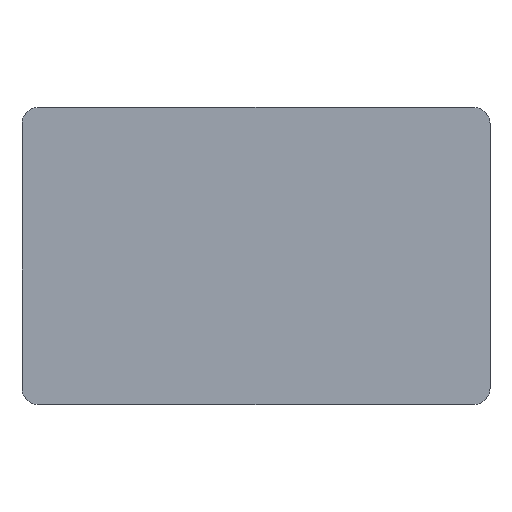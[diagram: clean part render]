
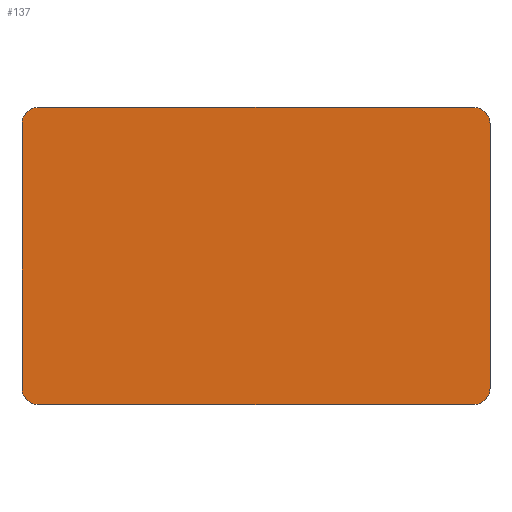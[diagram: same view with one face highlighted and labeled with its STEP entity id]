
A CAD part, top view. The second image highlights one B-rep face of the part: STEP entity #137.
In plain terms, the highlighted planar face has unit normal (0, 0, 1).
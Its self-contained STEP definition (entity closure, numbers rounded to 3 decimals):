
#21 = EDGE_CURVE('',#22,#24,#26,.T.);
#22 = VERTEX_POINT('',#23);
#23 = CARTESIAN_POINT('',(-42.5,-24.,3.));
#24 = VERTEX_POINT('',#25);
#25 = CARTESIAN_POINT('',(-42.5,24.,3.));
#26 = SURFACE_CURVE('',#27,(#31,#43),.PCURVE_S1.);
#27 = LINE('',#28,#29);
#28 = CARTESIAN_POINT('',(-42.5,-27.,3.));
#29 = VECTOR('',#30,1.);
#30 = DIRECTION('',(0.,1.,0.));
#31 = PCURVE('',#32,#37);
#32 = PLANE('',#33);
#33 = AXIS2_PLACEMENT_3D('',#34,#35,#36);
#34 = CARTESIAN_POINT('',(-42.5,-27.,0.));
#35 = DIRECTION('',(1.,0.,0.));
#36 = DIRECTION('',(0.,0.,1.));
#37 = DEFINITIONAL_REPRESENTATION('',(#38),#42);
#38 = LINE('',#39,#40);
#39 = CARTESIAN_POINT('',(3.,0.));
#40 = VECTOR('',#41,1.);
#41 = DIRECTION('',(0.,-1.));
#42 = ( GEOMETRIC_REPRESENTATION_CONTEXT(2) 
PARAMETRIC_REPRESENTATION_CONTEXT() REPRESENTATION_CONTEXT('2D SPACE',''
  ) );
#43 = PCURVE('',#44,#49);
#44 = PLANE('',#45);
#45 = AXIS2_PLACEMENT_3D('',#46,#47,#48);
#46 = CARTESIAN_POINT('',(-42.5,-27.,3.));
#47 = DIRECTION('',(0.,0.,1.));
#48 = DIRECTION('',(1.,0.,0.));
#49 = DEFINITIONAL_REPRESENTATION('',(#50),#54);
#50 = LINE('',#51,#52);
#51 = CARTESIAN_POINT('',(0.,0.));
#52 = VECTOR('',#53,1.);
#53 = DIRECTION('',(0.,1.));
#54 = ( GEOMETRIC_REPRESENTATION_CONTEXT(2) 
PARAMETRIC_REPRESENTATION_CONTEXT() REPRESENTATION_CONTEXT('2D SPACE',''
  ) );
#72 = CYLINDRICAL_SURFACE('',#73,3.);
#73 = AXIS2_PLACEMENT_3D('',#74,#75,#76);
#74 = CARTESIAN_POINT('',(-39.5,-24.,0.));
#75 = DIRECTION('',(0.,0.,1.));
#76 = DIRECTION('',(-1.,-0.,0.));
#126 = CYLINDRICAL_SURFACE('',#127,3.);
#127 = AXIS2_PLACEMENT_3D('',#128,#129,#130);
#128 = CARTESIAN_POINT('',(-39.5,24.,0.));
#129 = DIRECTION('',(0.,0.,1.));
#130 = DIRECTION('',(-1.,-0.,0.));
#137 = ADVANCED_FACE('',(#138),#44,.T.);
#138 = FACE_BOUND('',#139,.T.);
#139 = EDGE_LOOP('',(#140,#141,#165,#193,#226,#254,#283,#311));
#140 = ORIENTED_EDGE('',*,*,#21,.F.);
#141 = ORIENTED_EDGE('',*,*,#142,.T.);
#142 = EDGE_CURVE('',#22,#143,#145,.T.);
#143 = VERTEX_POINT('',#144);
#144 = CARTESIAN_POINT('',(-39.5,-27.,3.));
#145 = SURFACE_CURVE('',#146,(#151,#158),.PCURVE_S1.);
#146 = CIRCLE('',#147,3.);
#147 = AXIS2_PLACEMENT_3D('',#148,#149,#150);
#148 = CARTESIAN_POINT('',(-39.5,-24.,3.));
#149 = DIRECTION('',(0.,0.,1.));
#150 = DIRECTION('',(0.,-1.,0.));
#151 = PCURVE('',#44,#152);
#152 = DEFINITIONAL_REPRESENTATION('',(#153),#157);
#153 = CIRCLE('',#154,3.);
#154 = AXIS2_PLACEMENT_2D('',#155,#156);
#155 = CARTESIAN_POINT('',(3.,3.));
#156 = DIRECTION('',(0.,-1.));
#157 = ( GEOMETRIC_REPRESENTATION_CONTEXT(2) 
PARAMETRIC_REPRESENTATION_CONTEXT() REPRESENTATION_CONTEXT('2D SPACE',''
  ) );
#158 = PCURVE('',#72,#159);
#159 = DEFINITIONAL_REPRESENTATION('',(#160),#164);
#160 = LINE('',#161,#162);
#161 = CARTESIAN_POINT('',(-4.712,3.));
#162 = VECTOR('',#163,1.);
#163 = DIRECTION('',(1.,0.));
#164 = ( GEOMETRIC_REPRESENTATION_CONTEXT(2) 
PARAMETRIC_REPRESENTATION_CONTEXT() REPRESENTATION_CONTEXT('2D SPACE',''
  ) );
#165 = ORIENTED_EDGE('',*,*,#166,.T.);
#166 = EDGE_CURVE('',#143,#167,#169,.T.);
#167 = VERTEX_POINT('',#168);
#168 = CARTESIAN_POINT('',(39.5,-27.,3.));
#169 = SURFACE_CURVE('',#170,(#174,#181),.PCURVE_S1.);
#170 = LINE('',#171,#172);
#171 = CARTESIAN_POINT('',(-42.5,-27.,3.));
#172 = VECTOR('',#173,1.);
#173 = DIRECTION('',(1.,0.,0.));
#174 = PCURVE('',#44,#175);
#175 = DEFINITIONAL_REPRESENTATION('',(#176),#180);
#176 = LINE('',#177,#178);
#177 = CARTESIAN_POINT('',(0.,0.));
#178 = VECTOR('',#179,1.);
#179 = DIRECTION('',(1.,0.));
#180 = ( GEOMETRIC_REPRESENTATION_CONTEXT(2) 
PARAMETRIC_REPRESENTATION_CONTEXT() REPRESENTATION_CONTEXT('2D SPACE',''
  ) );
#181 = PCURVE('',#182,#187);
#182 = PLANE('',#183);
#183 = AXIS2_PLACEMENT_3D('',#184,#185,#186);
#184 = CARTESIAN_POINT('',(-42.5,-27.,0.));
#185 = DIRECTION('',(0.,1.,0.));
#186 = DIRECTION('',(0.,0.,1.));
#187 = DEFINITIONAL_REPRESENTATION('',(#188),#192);
#188 = LINE('',#189,#190);
#189 = CARTESIAN_POINT('',(3.,0.));
#190 = VECTOR('',#191,1.);
#191 = DIRECTION('',(0.,1.));
#192 = ( GEOMETRIC_REPRESENTATION_CONTEXT(2) 
PARAMETRIC_REPRESENTATION_CONTEXT() REPRESENTATION_CONTEXT('2D SPACE',''
  ) );
#193 = ORIENTED_EDGE('',*,*,#194,.F.);
#194 = EDGE_CURVE('',#195,#167,#197,.T.);
#195 = VERTEX_POINT('',#196);
#196 = CARTESIAN_POINT('',(42.5,-24.,3.));
#197 = SURFACE_CURVE('',#198,(#203,#214),.PCURVE_S1.);
#198 = CIRCLE('',#199,3.);
#199 = AXIS2_PLACEMENT_3D('',#200,#201,#202);
#200 = CARTESIAN_POINT('',(39.5,-24.,3.));
#201 = DIRECTION('',(-0.,-0.,-1.));
#202 = DIRECTION('',(0.,-1.,0.));
#203 = PCURVE('',#44,#204);
#204 = DEFINITIONAL_REPRESENTATION('',(#205),#213);
#205 = ( BOUNDED_CURVE() B_SPLINE_CURVE(2,(#206,#207,#208,#209,#210,#211
,#212),.UNSPECIFIED.,.T.,.F.) B_SPLINE_CURVE_WITH_KNOTS((1,2,2,2,2,1),(
    -2.094,0.,2.094,4.189,6.283,
8.378),.UNSPECIFIED.) CURVE() GEOMETRIC_REPRESENTATION_ITEM() 
RATIONAL_B_SPLINE_CURVE((1.,0.5,1.,0.5,1.,0.5,1.)) REPRESENTATION_ITEM(
  '') );
#206 = CARTESIAN_POINT('',(82.,0.));
#207 = CARTESIAN_POINT('',(76.804,0.));
#208 = CARTESIAN_POINT('',(79.402,4.5));
#209 = CARTESIAN_POINT('',(82.,9.));
#210 = CARTESIAN_POINT('',(84.598,4.5));
#211 = CARTESIAN_POINT('',(87.196,0.));
#212 = CARTESIAN_POINT('',(82.,0.));
#213 = ( GEOMETRIC_REPRESENTATION_CONTEXT(2) 
PARAMETRIC_REPRESENTATION_CONTEXT() REPRESENTATION_CONTEXT('2D SPACE',''
  ) );
#214 = PCURVE('',#215,#220);
#215 = CYLINDRICAL_SURFACE('',#216,3.);
#216 = AXIS2_PLACEMENT_3D('',#217,#218,#219);
#217 = CARTESIAN_POINT('',(39.5,-24.,0.));
#218 = DIRECTION('',(0.,0.,1.));
#219 = DIRECTION('',(1.,0.,-0.));
#220 = DEFINITIONAL_REPRESENTATION('',(#221),#225);
#221 = LINE('',#222,#223);
#222 = CARTESIAN_POINT('',(4.712,3.));
#223 = VECTOR('',#224,1.);
#224 = DIRECTION('',(-1.,0.));
#225 = ( GEOMETRIC_REPRESENTATION_CONTEXT(2) 
PARAMETRIC_REPRESENTATION_CONTEXT() REPRESENTATION_CONTEXT('2D SPACE',''
  ) );
#226 = ORIENTED_EDGE('',*,*,#227,.T.);
#227 = EDGE_CURVE('',#195,#228,#230,.T.);
#228 = VERTEX_POINT('',#229);
#229 = CARTESIAN_POINT('',(42.5,24.,3.));
#230 = SURFACE_CURVE('',#231,(#235,#242),.PCURVE_S1.);
#231 = LINE('',#232,#233);
#232 = CARTESIAN_POINT('',(42.5,-27.,3.));
#233 = VECTOR('',#234,1.);
#234 = DIRECTION('',(0.,1.,0.));
#235 = PCURVE('',#44,#236);
#236 = DEFINITIONAL_REPRESENTATION('',(#237),#241);
#237 = LINE('',#238,#239);
#238 = CARTESIAN_POINT('',(85.,0.));
#239 = VECTOR('',#240,1.);
#240 = DIRECTION('',(0.,1.));
#241 = ( GEOMETRIC_REPRESENTATION_CONTEXT(2) 
PARAMETRIC_REPRESENTATION_CONTEXT() REPRESENTATION_CONTEXT('2D SPACE',''
  ) );
#242 = PCURVE('',#243,#248);
#243 = PLANE('',#244);
#244 = AXIS2_PLACEMENT_3D('',#245,#246,#247);
#245 = CARTESIAN_POINT('',(42.5,-27.,0.));
#246 = DIRECTION('',(1.,0.,0.));
#247 = DIRECTION('',(0.,0.,1.));
#248 = DEFINITIONAL_REPRESENTATION('',(#249),#253);
#249 = LINE('',#250,#251);
#250 = CARTESIAN_POINT('',(3.,0.));
#251 = VECTOR('',#252,1.);
#252 = DIRECTION('',(0.,-1.));
#253 = ( GEOMETRIC_REPRESENTATION_CONTEXT(2) 
PARAMETRIC_REPRESENTATION_CONTEXT() REPRESENTATION_CONTEXT('2D SPACE',''
  ) );
#254 = ORIENTED_EDGE('',*,*,#255,.T.);
#255 = EDGE_CURVE('',#228,#256,#258,.T.);
#256 = VERTEX_POINT('',#257);
#257 = CARTESIAN_POINT('',(39.5,27.,3.));
#258 = SURFACE_CURVE('',#259,(#264,#271),.PCURVE_S1.);
#259 = CIRCLE('',#260,3.);
#260 = AXIS2_PLACEMENT_3D('',#261,#262,#263);
#261 = CARTESIAN_POINT('',(39.5,24.,3.));
#262 = DIRECTION('',(0.,0.,1.));
#263 = DIRECTION('',(0.,-1.,0.));
#264 = PCURVE('',#44,#265);
#265 = DEFINITIONAL_REPRESENTATION('',(#266),#270);
#266 = CIRCLE('',#267,3.);
#267 = AXIS2_PLACEMENT_2D('',#268,#269);
#268 = CARTESIAN_POINT('',(82.,51.));
#269 = DIRECTION('',(0.,-1.));
#270 = ( GEOMETRIC_REPRESENTATION_CONTEXT(2) 
PARAMETRIC_REPRESENTATION_CONTEXT() REPRESENTATION_CONTEXT('2D SPACE',''
  ) );
#271 = PCURVE('',#272,#277);
#272 = CYLINDRICAL_SURFACE('',#273,3.);
#273 = AXIS2_PLACEMENT_3D('',#274,#275,#276);
#274 = CARTESIAN_POINT('',(39.5,24.,0.));
#275 = DIRECTION('',(0.,0.,1.));
#276 = DIRECTION('',(1.,0.,-0.));
#277 = DEFINITIONAL_REPRESENTATION('',(#278),#282);
#278 = LINE('',#279,#280);
#279 = CARTESIAN_POINT('',(-1.571,3.));
#280 = VECTOR('',#281,1.);
#281 = DIRECTION('',(1.,0.));
#282 = ( GEOMETRIC_REPRESENTATION_CONTEXT(2) 
PARAMETRIC_REPRESENTATION_CONTEXT() REPRESENTATION_CONTEXT('2D SPACE',''
  ) );
#283 = ORIENTED_EDGE('',*,*,#284,.F.);
#284 = EDGE_CURVE('',#285,#256,#287,.T.);
#285 = VERTEX_POINT('',#286);
#286 = CARTESIAN_POINT('',(-39.5,27.,3.));
#287 = SURFACE_CURVE('',#288,(#292,#299),.PCURVE_S1.);
#288 = LINE('',#289,#290);
#289 = CARTESIAN_POINT('',(-42.5,27.,3.));
#290 = VECTOR('',#291,1.);
#291 = DIRECTION('',(1.,0.,0.));
#292 = PCURVE('',#44,#293);
#293 = DEFINITIONAL_REPRESENTATION('',(#294),#298);
#294 = LINE('',#295,#296);
#295 = CARTESIAN_POINT('',(0.,54.));
#296 = VECTOR('',#297,1.);
#297 = DIRECTION('',(1.,0.));
#298 = ( GEOMETRIC_REPRESENTATION_CONTEXT(2) 
PARAMETRIC_REPRESENTATION_CONTEXT() REPRESENTATION_CONTEXT('2D SPACE',''
  ) );
#299 = PCURVE('',#300,#305);
#300 = PLANE('',#301);
#301 = AXIS2_PLACEMENT_3D('',#302,#303,#304);
#302 = CARTESIAN_POINT('',(-42.5,27.,0.));
#303 = DIRECTION('',(0.,1.,0.));
#304 = DIRECTION('',(0.,0.,1.));
#305 = DEFINITIONAL_REPRESENTATION('',(#306),#310);
#306 = LINE('',#307,#308);
#307 = CARTESIAN_POINT('',(3.,0.));
#308 = VECTOR('',#309,1.);
#309 = DIRECTION('',(0.,1.));
#310 = ( GEOMETRIC_REPRESENTATION_CONTEXT(2) 
PARAMETRIC_REPRESENTATION_CONTEXT() REPRESENTATION_CONTEXT('2D SPACE',''
  ) );
#311 = ORIENTED_EDGE('',*,*,#312,.F.);
#312 = EDGE_CURVE('',#24,#285,#313,.T.);
#313 = SURFACE_CURVE('',#314,(#319,#330),.PCURVE_S1.);
#314 = CIRCLE('',#315,3.);
#315 = AXIS2_PLACEMENT_3D('',#316,#317,#318);
#316 = CARTESIAN_POINT('',(-39.5,24.,3.));
#317 = DIRECTION('',(-0.,-0.,-1.));
#318 = DIRECTION('',(0.,-1.,0.));
#319 = PCURVE('',#44,#320);
#320 = DEFINITIONAL_REPRESENTATION('',(#321),#329);
#321 = ( BOUNDED_CURVE() B_SPLINE_CURVE(2,(#322,#323,#324,#325,#326,#327
,#328),.UNSPECIFIED.,.T.,.F.) B_SPLINE_CURVE_WITH_KNOTS((1,2,2,2,2,1),(
    -2.094,0.,2.094,4.189,6.283,
8.378),.UNSPECIFIED.) CURVE() GEOMETRIC_REPRESENTATION_ITEM() 
RATIONAL_B_SPLINE_CURVE((1.,0.5,1.,0.5,1.,0.5,1.)) REPRESENTATION_ITEM(
  '') );
#322 = CARTESIAN_POINT('',(3.,48.));
#323 = CARTESIAN_POINT('',(-2.196,48.));
#324 = CARTESIAN_POINT('',(0.402,52.5));
#325 = CARTESIAN_POINT('',(3.,57.));
#326 = CARTESIAN_POINT('',(5.598,52.5));
#327 = CARTESIAN_POINT('',(8.196,48.));
#328 = CARTESIAN_POINT('',(3.,48.));
#329 = ( GEOMETRIC_REPRESENTATION_CONTEXT(2) 
PARAMETRIC_REPRESENTATION_CONTEXT() REPRESENTATION_CONTEXT('2D SPACE',''
  ) );
#330 = PCURVE('',#126,#331);
#331 = DEFINITIONAL_REPRESENTATION('',(#332),#336);
#332 = LINE('',#333,#334);
#333 = CARTESIAN_POINT('',(1.571,3.));
#334 = VECTOR('',#335,1.);
#335 = DIRECTION('',(-1.,0.));
#336 = ( GEOMETRIC_REPRESENTATION_CONTEXT(2) 
PARAMETRIC_REPRESENTATION_CONTEXT() REPRESENTATION_CONTEXT('2D SPACE',''
  ) );
